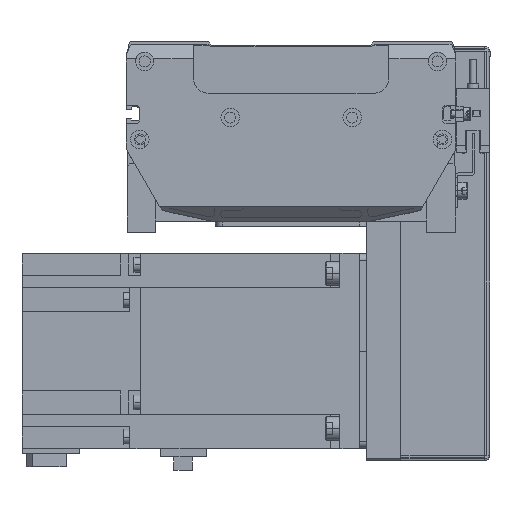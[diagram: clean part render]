
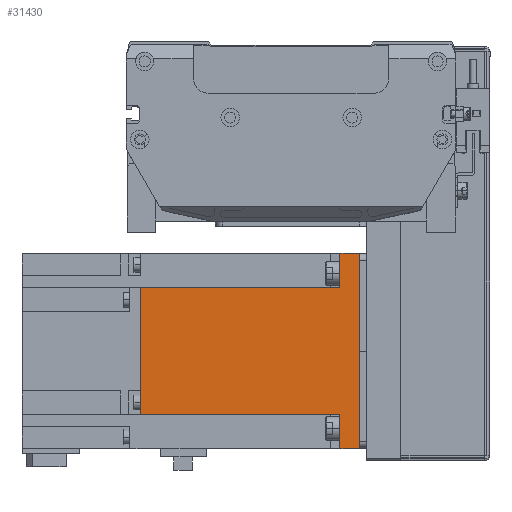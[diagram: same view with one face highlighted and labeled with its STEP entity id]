
A CAD part, front view. The second image highlights one B-rep face of the part: STEP entity #31430.
In plain terms, the highlighted planar face has unit normal (0, -1, 0) as drawn and (0, 0, -1) by its records, which use the part's own axes.
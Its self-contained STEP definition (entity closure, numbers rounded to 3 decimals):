
#1722 = CARTESIAN_POINT ( 'NONE',  ( 40., 8., -40. ) ) ;
#2590 = VERTEX_POINT ( 'NONE', #38985 ) ;
#2778 = CARTESIAN_POINT ( 'NONE',  ( -25.95, 8., -40. ) ) ;
#3046 = CARTESIAN_POINT ( 'NONE',  ( -40., 8., -40. ) ) ;
#3700 = EDGE_CURVE ( 'NONE', #53061, #3785, #22976, .T. ) ;
#3785 = VERTEX_POINT ( 'NONE', #39821 ) ;
#3984 = AXIS2_PLACEMENT_3D ( 'NONE', #19117, #47718, #6929 ) ;
#4120 = VERTEX_POINT ( 'NONE', #7863 ) ;
#5497 = DIRECTION ( 'NONE',  ( -1., 0., 0. ) ) ;
#5838 = CARTESIAN_POINT ( 'NONE',  ( -25.95, 89.8, -40. ) ) ;
#6369 = EDGE_LOOP ( 'NONE', ( #44539, #29358, #41111, #43445, #18733, #21976, #8768, #24611 ) ) ;
#6621 = DIRECTION ( 'NONE',  ( 0., 1., 0. ) ) ;
#6929 = DIRECTION ( 'NONE',  ( 1., 0., 0. ) ) ;
#7853 = EDGE_CURVE ( 'NONE', #2590, #10078, #16430, .T. ) ;
#7863 = CARTESIAN_POINT ( 'NONE',  ( -40., 0., -40. ) ) ;
#8768 = ORIENTED_EDGE ( 'NONE', *, *, #7853, .F. ) ;
#9091 = EDGE_CURVE ( 'NONE', #40415, #19678, #38009, .T. ) ;
#9847 = EDGE_CURVE ( 'NONE', #10078, #40415, #30259, .T. ) ;
#10078 = VERTEX_POINT ( 'NONE', #5838 ) ;
#10869 = VECTOR ( 'NONE', #45117, 1000. ) ;
#12367 = VECTOR ( 'NONE', #29142, 1000. ) ;
#13770 = CARTESIAN_POINT ( 'NONE',  ( 0., 0., -40. ) ) ;
#14754 = LINE ( 'NONE', #14864, #16051 ) ;
#14864 = CARTESIAN_POINT ( 'NONE',  ( 40., 89.8, -40. ) ) ;
#16051 = VECTOR ( 'NONE', #6621, 1000. ) ;
#16430 = LINE ( 'NONE', #22161, #42009 ) ;
#17504 = CARTESIAN_POINT ( 'NONE',  ( 40., 8., -40. ) ) ;
#18213 = DIRECTION ( 'NONE',  ( 0., 1., 0. ) ) ;
#18733 = ORIENTED_EDGE ( 'NONE', *, *, #9091, .F. ) ;
#19117 = CARTESIAN_POINT ( 'NONE',  ( 40., 89.8, -40. ) ) ;
#19347 = EDGE_CURVE ( 'NONE', #4120, #19678, #47975, .T. ) ;
#19678 = VERTEX_POINT ( 'NONE', #3046 ) ;
#19857 = VECTOR ( 'NONE', #5497, 1000. ) ;
#20225 = FACE_OUTER_BOUND ( 'NONE', #6369, .T. ) ;
#21976 = ORIENTED_EDGE ( 'NONE', *, *, #9847, .F. ) ;
#22161 = CARTESIAN_POINT ( 'NONE',  ( 40., 89.8, -40. ) ) ;
#22976 = LINE ( 'NONE', #1722, #38394 ) ;
#24139 = DIRECTION ( 'NONE',  ( -1., 0., 0. ) ) ;
#24611 = ORIENTED_EDGE ( 'NONE', *, *, #39037, .F. ) ;
#26742 = LINE ( 'NONE', #50604, #53010 ) ;
#29142 = DIRECTION ( 'NONE',  ( 0., -1., 0. ) ) ;
#29358 = ORIENTED_EDGE ( 'NONE', *, *, #43572, .F. ) ;
#30259 = LINE ( 'NONE', #32908, #12367 ) ;
#30985 = VECTOR ( 'NONE', #24139, 1000. ) ;
#31430 = ADVANCED_FACE ( 'NONE', ( #20225 ), #35398, .F. ) ;
#32908 = CARTESIAN_POINT ( 'NONE',  ( -25.95, 89.8, -40. ) ) ;
#33852 = CARTESIAN_POINT ( 'NONE',  ( 40., 0., -40. ) ) ;
#34847 = DIRECTION ( 'NONE',  ( -1., 0., 0. ) ) ;
#35031 = EDGE_CURVE ( 'NONE', #42258, #4120, #42264, .T. ) ;
#35398 = PLANE ( 'NONE',  #3984 ) ;
#35790 = CARTESIAN_POINT ( 'NONE',  ( 40., 8., -40. ) ) ;
#38009 = LINE ( 'NONE', #35790, #30985 ) ;
#38394 = VECTOR ( 'NONE', #34847, 1000. ) ;
#38462 = DIRECTION ( 'NONE',  ( -1., 0., 0. ) ) ;
#38985 = CARTESIAN_POINT ( 'NONE',  ( 25.95, 89.8, -40. ) ) ;
#39037 = EDGE_CURVE ( 'NONE', #3785, #2590, #26742, .T. ) ;
#39821 = CARTESIAN_POINT ( 'NONE',  ( 25.95, 8., -40. ) ) ;
#40415 = VERTEX_POINT ( 'NONE', #2778 ) ;
#41111 = ORIENTED_EDGE ( 'NONE', *, *, #35031, .T. ) ;
#42009 = VECTOR ( 'NONE', #38462, 1000. ) ;
#42258 = VERTEX_POINT ( 'NONE', #33852 ) ;
#42264 = LINE ( 'NONE', #13770, #19857 ) ;
#43445 = ORIENTED_EDGE ( 'NONE', *, *, #19347, .T. ) ;
#43572 = EDGE_CURVE ( 'NONE', #42258, #53061, #14754, .T. ) ;
#44539 = ORIENTED_EDGE ( 'NONE', *, *, #3700, .F. ) ;
#45117 = DIRECTION ( 'NONE',  ( 0., 1., 0. ) ) ;
#45659 = CARTESIAN_POINT ( 'NONE',  ( -40., 89.8, -40. ) ) ;
#47718 = DIRECTION ( 'NONE',  ( 0., 0., 1. ) ) ;
#47975 = LINE ( 'NONE', #45659, #10869 ) ;
#50604 = CARTESIAN_POINT ( 'NONE',  ( 25.95, 89.8, -40. ) ) ;
#53010 = VECTOR ( 'NONE', #18213, 1000. ) ;
#53061 = VERTEX_POINT ( 'NONE', #17504 ) ;
